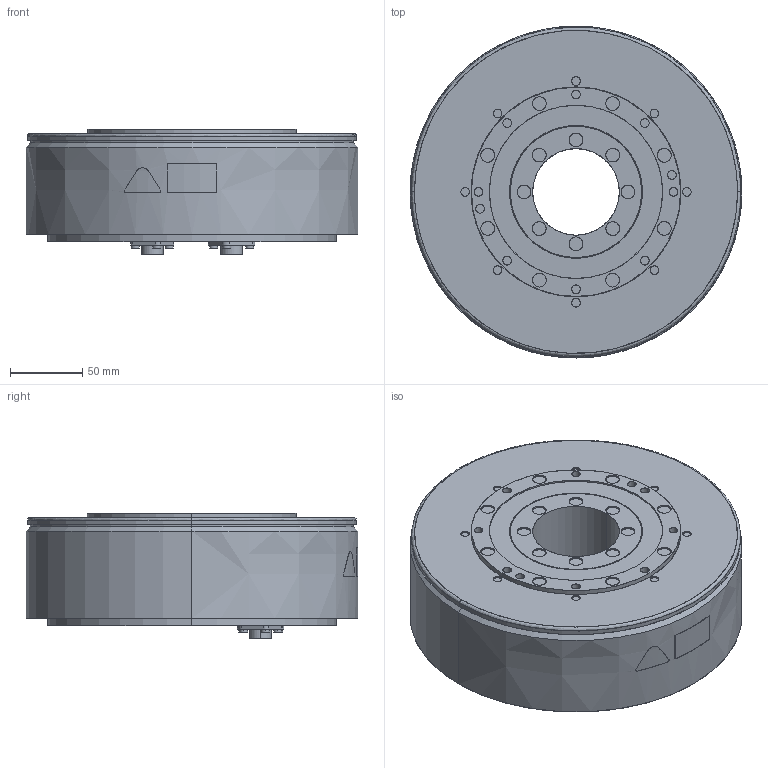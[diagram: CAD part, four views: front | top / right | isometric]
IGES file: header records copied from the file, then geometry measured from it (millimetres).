
Start section: SolidWorks IGES file using analytic representation for surfaces
Bounding box: 230 x 230.1 x 87.1 mm (x, y, z)
Surface area: 157426.9 mm2 (no closed solid volume)
Topology: 0 solids, 0 shells, 371 faces, 7757 edges, 7757 vertices
Faces by surface type: revolution 220, bspline 151
